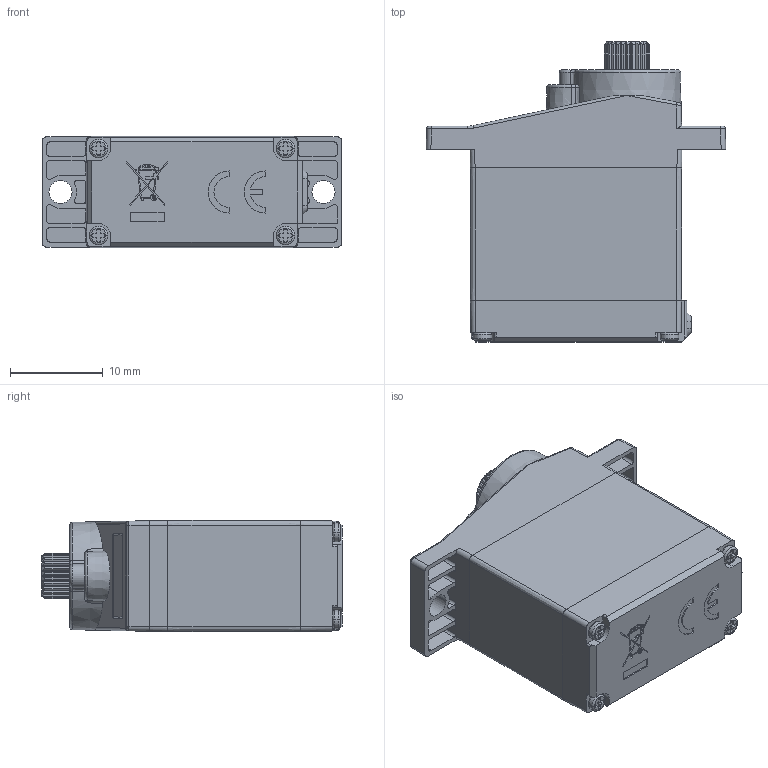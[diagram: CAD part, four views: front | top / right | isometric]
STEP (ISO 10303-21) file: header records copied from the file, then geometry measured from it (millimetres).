
FILE_DESCRIPTION((''),'2;1');
FILE_NAME('DDJ-9G-LV-B13DLM','2024-04-25T',('扂'),(''),'PRO/ENGINEER BY PARAMETRIC TECHNOLOGY CORPORATION, 2010280','PRO/ENGINEER BY PARAMETRIC TECHNOLOGY CORPORATION, 2010280','');
FILE_SCHEMA(('CONFIG_CONTROL_DESIGN'));
Length unit declared in the file: millimetre
Products named in the file (1): DDJ-9G-LV-B13DLM
Bounding box: 32.33 x 32.4 x 12 mm (x, y, z)
Volume: 7446.7 mm3; surface area: 3074.8 mm2
Topology: 1 solids, 1 shells, 639 faces, 1791 edges, 1181 vertices
Faces by surface type: plane 305, cylinder 258, bspline 28, torus 20, cone 16, extrusion 12
Entity records: 24548 total; most frequent: CARTESIAN_POINT 8273, ORIENTED_EDGE 3578, DIRECTION 3166, EDGE_CURVE 1789, VERTEX_POINT 1181, VECTOR 1056, AXIS2_PLACEMENT_3D 1055, LINE 1044
